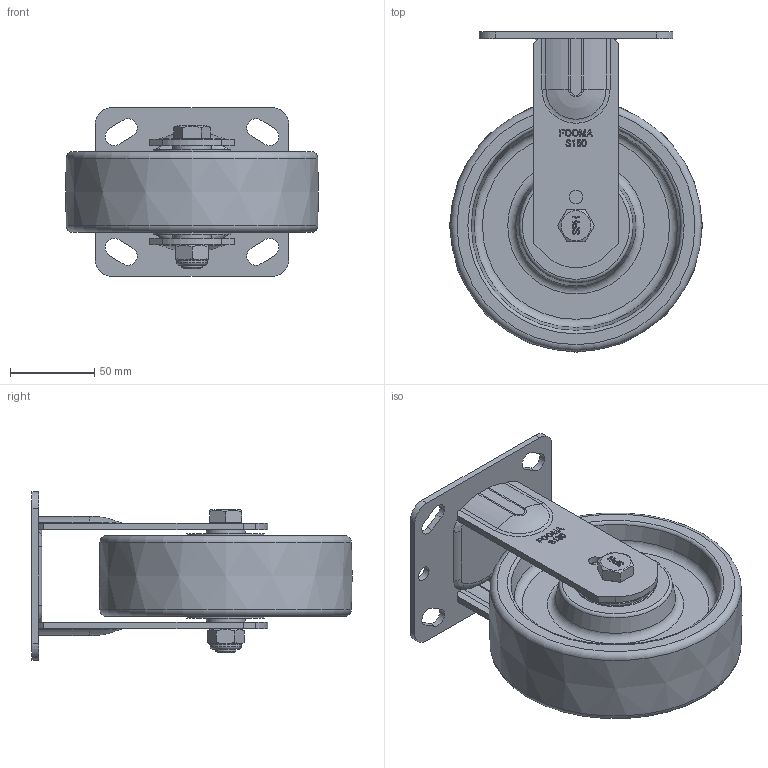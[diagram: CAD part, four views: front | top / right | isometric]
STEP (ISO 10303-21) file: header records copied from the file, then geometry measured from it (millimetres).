
FILE_DESCRIPTION(/* description */ (''),/* implementation_level */ '2;1');
FILE_NAME(/* name */ '\\192.168.10.38\지덕공유\1.기술연구소\2.연구개발 진행중\124.SPH-Series_중하중_2025.02.11\1.도면\2. 3D\홈페이지용\SPH-150-ARF-NYD.stp',/* time_stamp */ '2026-05-19T17:19:21+09:00',/* author */ ('admin'),/* organization */ ('지덕산업'),/* preprocessor_version */ 'ST-DEVELOPER v18.1',/* originating_system */ 'Autodesk Inventor 2021',/* authorisation */ '');
FILE_SCHEMA (('AUTOMOTIVE_DESIGN { 1 0 10303 214 3 1 1 }'));
Length unit declared in the file: millimetre
Products named in the file (1): SPH-150-ARF-NYD
Bounding box: 150 x 190 x 100 mm (x, y, z)
Volume: 701743.7 mm3; surface area: 123131 mm2
Topology: 1 solids, 1 shells, 1025 faces, 2770 edges, 1833 vertices
Faces by surface type: plane 469, bspline 448, cylinder 57, torus 30, cone 17, sphere 4
Full cylindrical faces by diameter (mm): 8 x2, 9 x2, 12 x1, 18 x1, 18.5 x1, 46.001 x2, 47 x2
Entity records: 33028 total; most frequent: CARTESIAN_POINT 10121, ORIENTED_EDGE 5540, DIRECTION 3236, EDGE_CURVE 2770, VERTEX_POINT 1833, LINE 1640, VECTOR 1640, EDGE_LOOP 1129
